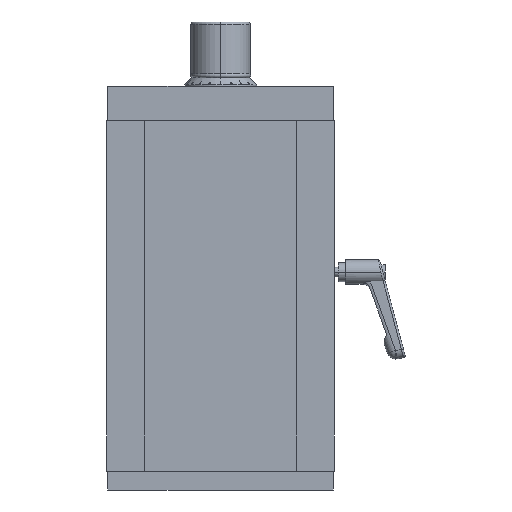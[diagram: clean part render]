
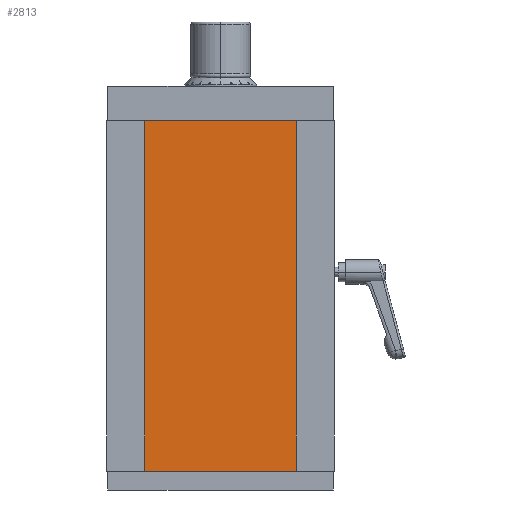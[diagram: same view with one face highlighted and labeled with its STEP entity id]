
A CAD part, front view. The second image highlights one B-rep face of the part: STEP entity #2813.
In plain terms, the highlighted planar face has unit normal (0, -1, 0).
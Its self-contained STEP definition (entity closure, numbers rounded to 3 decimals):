
#2516 = VERTEX_POINT ( 'NONE', #9969 ) ;
#2530 = VERTEX_POINT ( 'NONE', #9950 ) ;
#2569 = EDGE_CURVE ( 'NONE', #2530, #2516, #10012, .T. ) ;
#2813 = ADVANCED_FACE ( 'Fl�che15', ( #10478 ), #10477, .F. ) ;
#2814 = ORIENTED_EDGE ( 'NONE', *, *, #2815, .T. ) ;
#2815 = EDGE_CURVE ( 'NONE', #2827, #2516, #10472, .T. ) ;
#2816 = ORIENTED_EDGE ( 'NONE', *, *, #2569, .F. ) ;
#2817 = ORIENTED_EDGE ( 'NONE', *, *, #2818, .F. ) ;
#2818 = EDGE_CURVE ( 'NONE', #2830, #2530, #10468, .T. ) ;
#2819 = ORIENTED_EDGE ( 'NONE', *, *, #2829, .T. ) ;
#2827 = VERTEX_POINT ( 'NONE', #10515 ) ;
#2829 = EDGE_CURVE ( 'NONE', #2830, #2827, #10514, .T. ) ;
#2830 = VERTEX_POINT ( 'NONE', #10510 ) ;
#2835 = EDGE_LOOP ( 'NONE', ( #2814, #2816, #2817, #2819 ) ) ;
#9950 = CARTESIAN_POINT ( 'NONE',  ( 41.155, 0., 92.5 ) ) ;
#9969 = CARTESIAN_POINT ( 'NONE',  ( 41.155, 0., -92.5 ) ) ;
#10009 = DIRECTION ( 'NONE',  ( 0., 0., -1. ) ) ;
#10010 = VECTOR ( 'NONE', #10009, 1000. ) ;
#10011 = CARTESIAN_POINT ( 'NONE',  ( 41.155, 0., 92.5 ) ) ;
#10012 = LINE ( 'NONE', #10011, #10010 ) ;
#10465 = DIRECTION ( 'NONE',  ( 1., 0., 0. ) ) ;
#10466 = VECTOR ( 'NONE', #10465, 1000. ) ;
#10467 = CARTESIAN_POINT ( 'NONE',  ( -41.155, 0., 92.5 ) ) ;
#10468 = LINE ( 'NONE', #10467, #10466 ) ;
#10469 = DIRECTION ( 'NONE',  ( 1., 0., 0. ) ) ;
#10470 = VECTOR ( 'NONE', #10469, 1000. ) ;
#10471 = CARTESIAN_POINT ( 'NONE',  ( -41.155, 0., -92.5 ) ) ;
#10472 = LINE ( 'NONE', #10471, #10470 ) ;
#10473 = DIRECTION ( 'NONE',  ( 0., 0., 1. ) ) ;
#10474 = DIRECTION ( 'NONE',  ( 0., 1., 0. ) ) ;
#10475 = CARTESIAN_POINT ( 'NONE',  ( -41.155, 0., 92.5 ) ) ;
#10476 = AXIS2_PLACEMENT_3D ( 'NONE', #10475, #10474, #10473 ) ;
#10477 = PLANE ( 'NONE',  #10476 ) ;
#10478 = FACE_OUTER_BOUND ( 'NONE', #2835, .T. ) ;
#10510 = CARTESIAN_POINT ( 'NONE',  ( -41.155, 0., 92.5 ) ) ;
#10511 = DIRECTION ( 'NONE',  ( 0., 0., -1. ) ) ;
#10512 = VECTOR ( 'NONE', #10511, 1000. ) ;
#10513 = CARTESIAN_POINT ( 'NONE',  ( -41.155, 0., 92.5 ) ) ;
#10514 = LINE ( 'NONE', #10513, #10512 ) ;
#10515 = CARTESIAN_POINT ( 'NONE',  ( -41.155, 0., -92.5 ) ) ;
